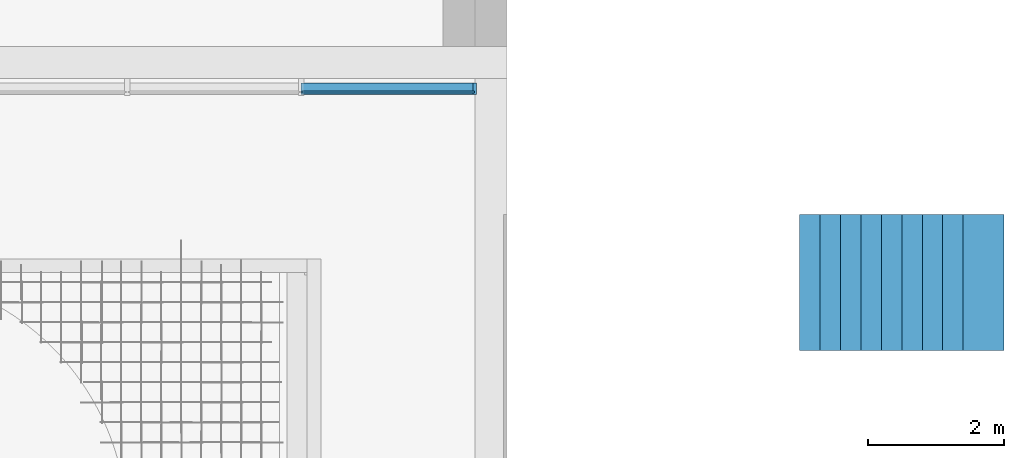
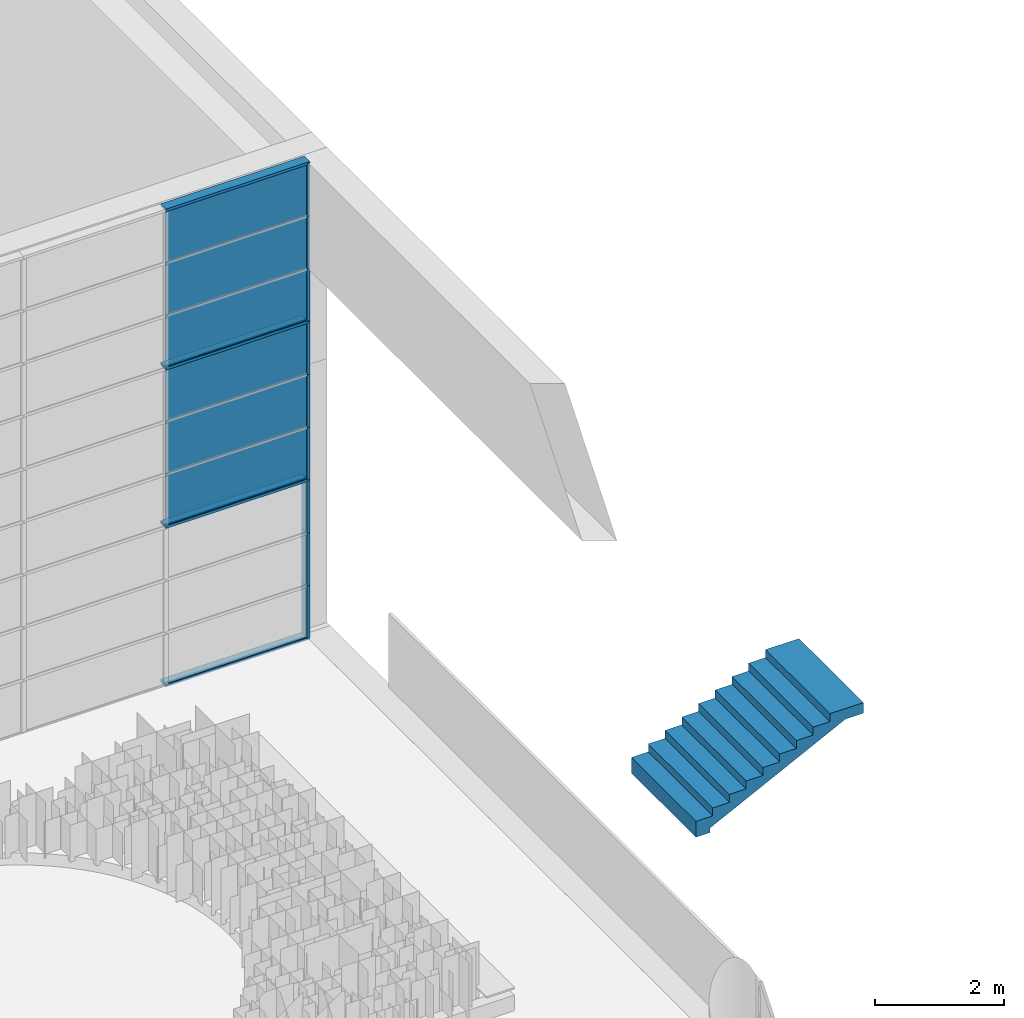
# One storey, part 59 of 105: 22 building element parts, 4 elements without a shape of their own.
"""IFC4 building model written with IfcOpenShell, lengths in millimetres."""

from ifc_helpers import new_model, entity, si_unit, converted_unit, derived_unit, direction, frame, origin_with_axes, place, context, subcontext, project, spatial, triangles, material, element, aggregate, save


model = new_model("IFC4")

# Units and contexts
model_context = context("Model", 3, precision=1e-05, world=origin_with_axes(), true_north=direction((0.0, 1.0)))
body_context = subcontext(model_context, "Body", "Model", "MODEL_VIEW")
ifc_project = project(units=[si_unit("LENGTHUNIT", "METRE", prefix="MILLI"), si_unit("AREAUNIT", "SQUARE_METRE"), si_unit("VOLUMEUNIT", "CUBIC_METRE"), converted_unit("PLANEANGLEUNIT", "DEGREE", entity("IfcLengthMeasure", 0.017453), si_unit("PLANEANGLEUNIT", "RADIAN"), dimensions=[0, 0, 0, 0, 0, 0, 0]), si_unit("SOLIDANGLEUNIT", "STERADIAN"), si_unit("MASSUNIT", "GRAM"), si_unit("TIMEUNIT", "SECOND"), si_unit("THERMODYNAMICTEMPERATUREUNIT", "DEGREE_CELSIUS"), si_unit("LUMINOUSINTENSITYUNIT", "LUMEN"), si_unit("POWERUNIT", "WATT"), derived_unit("THERMALTRANSMITTANCEUNIT", [(si_unit("POWERUNIT", "WATT"), 1), (si_unit("THERMODYNAMICTEMPERATUREUNIT", "KELVIN"), -1), (si_unit("AREAUNIT", "SQUARE_METRE"), -1)])], contexts=[model_context])

# Site, building, storey
site_placement = place(None, origin_with_axes())
site = spatial("IfcSite", under=ifc_project, at=site_placement, Name="Default Site", CompositionType="ELEMENT")
building_placement = place(site_placement, origin_with_axes())
building = spatial("IfcBuilding", under=site, at=building_placement, Name="Default Building", CompositionType="ELEMENT")
storey_placement = place(building_placement, origin_with_axes())
storey = spatial("IfcBuildingStorey", under=building, at=storey_placement, Name="OG - Story", CompositionType="ELEMENT", Elevation=0.0)

# Curtain wall, building element parts
curtain_wall_1_placement = place(storey_placement, origin_with_axes())
curtain_wall_1 = element("IfcCurtainWall", 1, at=curtain_wall_1_placement, inside=storey, Name="Fassade-005", PredefinedType="NOTDEFINED")
ifc_material_1 = material(Name="Blech")
building_element_part_1_placement = place(curtain_wall_1_placement, frame((52496.845873, -27789.262838, 3000.0), z_axis=(0.0, 0.0, 1.0), x_axis=(1.0, 0.0, 0.0)))
building_element_part_1 = element("IfcBuildingElementPart", 2, at=building_element_part_1_placement, material=ifc_material_1, Name="Blech", PredefinedType="NOTDEFINED", context=body_context, shape_type="Tessellation", body=[
    triangles([(26759.545, 15.0, 25.0), (26759.545, 133.0, 25.0), (26779.545, 15.0, 5.0), (26809.545, 133.0, -24.999), (26779.545, -14.999, 5.0), (26809.545, -34.999, -24.999), (26759.545, -14.999, 25.0), (26759.545, -34.999, 25.0), (24233.636, 15.0, 5.0), (24233.636, -14.999, 5.0), (24233.636, -14.999, 25.0), (24233.636, -34.999, 25.0), (24233.636, -34.999, -24.999), (24233.636, 133.0, -24.999), (24233.636, 133.0, 25.0), (24233.636, 15.0, 25.0)], [[1, 2, 3], [3, 2, 4], [3, 4, 5], [5, 4, 6], [5, 6, 7], [7, 6, 8], [5, 3, 9], [5, 9, 10], [11, 7, 5], [11, 5, 10], [7, 11, 12], [7, 12, 8], [13, 6, 8], [13, 8, 12], [14, 4, 6], [14, 6, 13], [15, 2, 4], [15, 4, 14], [16, 1, 2], [16, 2, 15], [3, 1, 16], [3, 16, 9], [16, 15, 9], [9, 15, 14], [9, 14, 10], [10, 14, 13], [10, 13, 11], [11, 13, 12]], closed=False),
])
building_element_part_2_placement = place(curtain_wall_1_placement, frame((52496.845873, -27789.262838, 3000.0), z_axis=(0.0, 0.0, 1.0), x_axis=(1.0, 0.0, 0.0)))
building_element_part_2 = element("IfcBuildingElementPart", 3, at=building_element_part_2_placement, material=ifc_material_1, Name="Blech", PredefinedType="NOTDEFINED", context=body_context, shape_type="Tessellation", body=[
    triangles([(26759.545, 15.0, 2975.0), (26759.545, 133.0, 2975.0), (26779.545, 15.0, 2995.0), (26809.545, 133.0, 3025.0), (26779.545, -14.999, 2995.0), (26809.545, -34.999, 3025.0), (26759.545, -14.999, 2975.0), (26759.545, -34.999, 2975.0), (26779.545, 15.0, 2000.0), (26779.545, -14.999, 2000.0), (26759.545, -14.999, 2000.0), (26759.545, -34.999, 2000.0), (26809.545, -34.999, 2000.0), (26809.545, 133.0, 2000.0), (26759.545, 133.0, 2000.0), (26759.545, 15.0, 2000.0)], [[1, 2, 3], [3, 2, 4], [3, 4, 5], [5, 4, 6], [5, 6, 7], [7, 6, 8], [5, 3, 9], [5, 9, 10], [11, 7, 5], [11, 5, 10], [7, 11, 12], [7, 12, 8], [13, 6, 8], [13, 8, 12], [14, 4, 6], [14, 6, 13], [15, 2, 4], [15, 4, 14], [16, 1, 2], [16, 2, 15], [3, 1, 16], [3, 16, 9], [10, 9, 14], [10, 14, 13], [10, 13, 12], [10, 12, 11], [16, 15, 14], [16, 14, 9]], closed=False),
])
building_element_part_3_placement = place(curtain_wall_1_placement, frame((52496.845873, -27789.262838, 3000.0), z_axis=(0.0, 0.0, 1.0), x_axis=(1.0, 0.0, 0.0)))
building_element_part_3 = element("IfcBuildingElementPart", 4, at=building_element_part_3_placement, material=ifc_material_1, Name="Blech", PredefinedType="NOTDEFINED", context=body_context, shape_type="Tessellation", body=[
    triangles([(26779.545, -14.999, 1000.0), (26779.545, 15.0, 1000.0), (26809.545, 133.0, 1000.0), (26809.545, -34.999, 1000.0), (26759.545, -34.999, 1000.0), (26759.545, -14.999, 1000.0), (26759.545, 15.0, 1000.0), (26759.545, 133.0, 1000.0), (26779.545, 15.0, 5.0), (26779.545, -14.999, 5.0), (26759.545, -14.999, 25.0), (26759.545, -34.999, 25.0), (26809.545, -34.999, -24.999), (26809.545, 133.0, -24.999), (26759.545, 133.0, 25.0), (26759.545, 15.0, 25.0)], [[1, 2, 3], [1, 3, 4], [1, 4, 5], [1, 5, 6], [7, 8, 3], [7, 3, 2], [1, 2, 9], [1, 9, 10], [11, 6, 1], [11, 1, 10], [6, 11, 12], [6, 12, 5], [4, 5, 12], [4, 12, 13], [3, 4, 13], [3, 13, 14], [8, 3, 14], [8, 14, 15], [16, 7, 8], [16, 8, 15], [2, 7, 16], [2, 16, 9], [16, 15, 9], [9, 15, 14], [9, 14, 10], [10, 14, 13], [10, 13, 11], [11, 13, 12]], closed=False),
])
building_element_part_4_placement = place(curtain_wall_1_placement, frame((52496.845873, -27789.262838, 3000.0), z_axis=(0.0, 0.0, 1.0), x_axis=(1.0, 0.0, 0.0)))
building_element_part_4 = element("IfcBuildingElementPart", 5, at=building_element_part_4_placement, material=ifc_material_1, Name="Blech", PredefinedType="NOTDEFINED", context=body_context, shape_type="Tessellation", body=[
    triangles([(26759.545, 15.0, 2975.0), (26759.545, 133.0, 2975.0), (26779.545, 15.0, 2995.0), (26809.545, 133.0, 3025.0), (26779.545, -14.999, 2995.0), (26809.545, -34.999, 3025.0), (26759.545, -14.999, 2975.0), (26759.545, -34.999, 2975.0), (24233.636, 15.0, 2995.0), (24233.636, 15.0, 2975.0), (24233.636, 133.0, 2975.0), (24233.636, 133.0, 3025.0), (24233.636, -34.999, 3025.0), (24233.636, -34.999, 2975.0), (24233.636, -14.999, 2975.0), (24233.636, -14.999, 2995.0)], [[1, 2, 3], [3, 2, 4], [3, 4, 5], [5, 4, 6], [5, 6, 7], [7, 6, 8], [3, 9, 10], [3, 10, 1], [10, 11, 2], [10, 2, 1], [11, 12, 4], [11, 4, 2], [12, 13, 6], [12, 6, 4], [13, 14, 8], [13, 8, 6], [7, 8, 14], [7, 14, 15], [15, 16, 5], [15, 5, 7], [5, 16, 9], [5, 9, 3], [10, 11, 9], [9, 11, 12], [9, 12, 16], [16, 12, 13], [16, 13, 15], [15, 13, 14]], closed=False),
])
building_element_part_5_placement = place(curtain_wall_1_placement, frame((52496.845873, -27789.262838, 3000.0), z_axis=(0.0, 0.0, 1.0), x_axis=(1.0, 0.0, 0.0)))
building_element_part_5 = element("IfcBuildingElementPart", 6, at=building_element_part_5_placement, material=ifc_material_1, Name="Blech", PredefinedType="NOTDEFINED", context=body_context, shape_type="Tessellation", body=[
    triangles([(26779.545, -14.999, 2000.0), (26779.545, 15.0, 2000.0), (26809.545, 133.0, 2000.0), (26809.545, -34.999, 2000.0), (26759.545, -34.999, 2000.0), (26759.545, -14.999, 2000.0), (26759.545, 15.0, 2000.0), (26759.545, 133.0, 2000.0), (26779.545, 15.0, 1000.0), (26779.545, -14.999, 1000.0), (26759.545, -14.999, 1000.0), (26759.545, -34.999, 1000.0), (26809.545, -34.999, 1000.0), (26809.545, 133.0, 1000.0), (26759.545, 133.0, 1000.0), (26759.545, 15.0, 1000.0)], [[1, 2, 3], [1, 3, 4], [1, 4, 5], [1, 5, 6], [7, 8, 3], [7, 3, 2], [1, 2, 9], [1, 9, 10], [11, 6, 1], [11, 1, 10], [6, 11, 12], [6, 12, 5], [13, 4, 5], [13, 5, 12], [14, 3, 4], [14, 4, 13], [15, 8, 3], [15, 3, 14], [16, 7, 8], [16, 8, 15], [2, 7, 16], [2, 16, 9], [10, 9, 14], [10, 14, 13], [10, 13, 12], [10, 12, 11], [16, 15, 14], [16, 14, 9]], closed=False),
])
aggregate(curtain_wall_1, [building_element_part_1, building_element_part_2, building_element_part_3, building_element_part_4, building_element_part_5])

curtain_wall_2_placement = place(storey_placement, origin_with_axes())
curtain_wall_2 = element("IfcCurtainWall", 7, at=curtain_wall_2_placement, inside=storey, Name="Fassade-005", PredefinedType="NOTDEFINED")
ifc_material_2 = material(Name="Normalglas")
building_element_part_6_placement = place(curtain_wall_2_placement, frame((52496.845873, -27789.262838, 6000.0), z_axis=(0.0, 0.0, 1.0), x_axis=(1.0, 0.0, 0.0)))
building_element_part_6 = element("IfcBuildingElementPart", 8, at=building_element_part_6_placement, material=ifc_material_2, Name="Normalglas", PredefinedType="NOTDEFINED", context=body_context, shape_type="Tessellation", body=[
    triangles([(26779.545, 15.0, 995.0), (24243.636, 15.0, 995.0), (24243.636, -14.999, 995.0), (26779.545, -14.999, 995.0), (26779.545, 15.0, 5.0), (24243.636, 15.0, 5.0), (24243.636, -14.999, 5.0), (26779.545, -14.999, 5.0)], [[1, 2, 3], [1, 3, 4], [1, 5, 6], [1, 6, 2], [2, 6, 7], [2, 7, 3], [4, 3, 7], [4, 7, 8], [5, 1, 4], [5, 4, 8], [6, 5, 8], [6, 8, 7]], closed=False),
])
building_element_part_7_placement = place(curtain_wall_2_placement, frame((52496.845873, -27789.262838, 6000.0), z_axis=(0.0, 0.0, 1.0), x_axis=(1.0, 0.0, 0.0)))
building_element_part_7 = element("IfcBuildingElementPart", 9, at=building_element_part_7_placement, material=ifc_material_2, Name="Normalglas", PredefinedType="NOTDEFINED", context=body_context, shape_type="Tessellation", body=[
    triangles([(26779.545, 15.0, 1995.0), (24243.636, 15.0, 1995.0), (24243.636, -14.999, 1995.0), (26779.545, -14.999, 1995.0), (26779.545, 15.0, 1005.0), (24243.636, 15.0, 1005.0), (24243.636, -14.999, 1005.0), (26779.545, -14.999, 1005.0)], [[1, 2, 3], [1, 3, 4], [1, 5, 6], [1, 6, 2], [2, 6, 7], [2, 7, 3], [4, 3, 7], [4, 7, 8], [5, 1, 4], [5, 4, 8], [6, 5, 8], [6, 8, 7]], closed=False),
])
building_element_part_8_placement = place(curtain_wall_2_placement, frame((52496.845873, -27789.262838, 6000.0), z_axis=(0.0, 0.0, 1.0), x_axis=(1.0, 0.0, 0.0)))
building_element_part_8 = element("IfcBuildingElementPart", 10, at=building_element_part_8_placement, material=ifc_material_2, Name="Normalglas", PredefinedType="NOTDEFINED", context=body_context, shape_type="Tessellation", body=[
    triangles([(26779.545, 15.0, 2995.0), (24243.636, 15.0, 2995.0), (24243.636, -14.999, 2995.0), (26779.545, -14.999, 2995.0), (26779.545, 15.0, 2005.0), (24243.636, 15.0, 2005.0), (24243.636, -14.999, 2005.0), (26779.545, -14.999, 2005.0)], [[1, 2, 3], [1, 3, 4], [1, 5, 6], [1, 6, 2], [2, 6, 7], [2, 7, 3], [4, 3, 7], [4, 7, 8], [5, 1, 4], [5, 4, 8], [6, 5, 8], [6, 8, 7]], closed=False),
])
building_element_part_9_placement = place(curtain_wall_2_placement, frame((52496.845873, -27789.262838, 6000.0), z_axis=(0.0, 0.0, 1.0), x_axis=(1.0, 0.0, 0.0)))
building_element_part_9 = element("IfcBuildingElementPart", 11, at=building_element_part_9_placement, material=ifc_material_1, Name="Blech", PredefinedType="NOTDEFINED", context=body_context, shape_type="Tessellation", body=[
    triangles([(26759.545, 15.0, 25.0), (26759.545, 133.0, 25.0), (26779.545, 15.0, 5.0), (26809.545, 133.0, -24.999), (26779.545, -14.999, 5.0), (26809.545, -34.999, -24.999), (26759.545, -14.999, 25.0), (26759.545, -34.999, 25.0), (24233.636, 15.0, 5.0), (24233.636, -14.999, 5.0), (24233.636, -14.999, 25.0), (24233.636, -34.999, 25.0), (24233.636, -34.999, -24.999), (24233.636, 133.0, -24.999), (24233.636, 133.0, 25.0), (24233.636, 15.0, 25.0)], [[1, 2, 3], [3, 2, 4], [3, 4, 5], [5, 4, 6], [5, 6, 7], [7, 6, 8], [5, 3, 9], [5, 9, 10], [11, 7, 5], [11, 5, 10], [7, 11, 12], [7, 12, 8], [13, 6, 8], [13, 8, 12], [14, 4, 6], [14, 6, 13], [15, 2, 4], [15, 4, 14], [16, 1, 2], [16, 2, 15], [3, 1, 16], [3, 16, 9], [16, 15, 9], [9, 15, 14], [9, 14, 10], [10, 14, 13], [10, 13, 11], [11, 13, 12]], closed=False),
])
building_element_part_10_placement = place(curtain_wall_2_placement, frame((52496.845873, -27789.262838, 6000.0), z_axis=(0.0, 0.0, 1.0), x_axis=(1.0, 0.0, 0.0)))
building_element_part_10 = element("IfcBuildingElementPart", 12, at=building_element_part_10_placement, material=ifc_material_1, Name="Blech", PredefinedType="NOTDEFINED", context=body_context, shape_type="Tessellation", body=[
    triangles([(26759.545, 15.0, 2975.0), (26759.545, 133.0, 2975.0), (26779.545, 15.0, 2995.0), (26809.545, 133.0, 3025.0), (26779.545, -14.999, 2995.0), (26809.545, -34.999, 3025.0), (26759.545, -14.999, 2975.0), (26759.545, -34.999, 2975.0), (26779.545, 15.0, 2000.0), (26779.545, -14.999, 2000.0), (26759.545, -14.999, 2000.0), (26759.545, -34.999, 2000.0), (26809.545, -34.999, 2000.0), (26809.545, 133.0, 2000.0), (26759.545, 133.0, 2000.0), (26759.545, 15.0, 2000.0)], [[1, 2, 3], [3, 2, 4], [3, 4, 5], [5, 4, 6], [5, 6, 7], [7, 6, 8], [5, 3, 9], [5, 9, 10], [11, 7, 5], [11, 5, 10], [7, 11, 12], [7, 12, 8], [13, 6, 8], [13, 8, 12], [14, 4, 6], [14, 6, 13], [15, 2, 4], [15, 4, 14], [16, 1, 2], [16, 2, 15], [3, 1, 16], [3, 16, 9], [10, 9, 14], [10, 14, 13], [10, 13, 12], [10, 12, 11], [16, 15, 14], [16, 14, 9]], closed=False),
])
building_element_part_11_placement = place(curtain_wall_2_placement, frame((52496.845873, -27789.262838, 6000.0), z_axis=(0.0, 0.0, 1.0), x_axis=(1.0, 0.0, 0.0)))
building_element_part_11 = element("IfcBuildingElementPart", 13, at=building_element_part_11_placement, material=ifc_material_1, Name="Blech", PredefinedType="NOTDEFINED", context=body_context, shape_type="Tessellation", body=[
    triangles([(26779.545, -14.999, 1000.0), (26779.545, 15.0, 1000.0), (26809.545, 133.0, 1000.0), (26809.545, -34.999, 1000.0), (26759.545, -34.999, 1000.0), (26759.545, -14.999, 1000.0), (26759.545, 15.0, 1000.0), (26759.545, 133.0, 1000.0), (26779.545, 15.0, 5.0), (26779.545, -14.999, 5.0), (26759.545, -14.999, 25.0), (26759.545, -34.999, 25.0), (26809.545, -34.999, -24.999), (26809.545, 133.0, -24.999), (26759.545, 133.0, 25.0), (26759.545, 15.0, 25.0)], [[1, 2, 3], [1, 3, 4], [1, 4, 5], [1, 5, 6], [7, 8, 3], [7, 3, 2], [1, 2, 9], [1, 9, 10], [11, 6, 1], [11, 1, 10], [6, 11, 12], [6, 12, 5], [4, 5, 12], [4, 12, 13], [3, 4, 13], [3, 13, 14], [8, 3, 14], [8, 14, 15], [16, 7, 8], [16, 8, 15], [2, 7, 16], [2, 16, 9], [16, 15, 9], [9, 15, 14], [9, 14, 10], [10, 14, 13], [10, 13, 11], [11, 13, 12]], closed=False),
])
building_element_part_12_placement = place(curtain_wall_2_placement, frame((52496.845873, -27789.262838, 6000.0), z_axis=(0.0, 0.0, 1.0), x_axis=(1.0, 0.0, 0.0)))
building_element_part_12 = element("IfcBuildingElementPart", 14, at=building_element_part_12_placement, material=ifc_material_1, Name="Blech", PredefinedType="NOTDEFINED", context=body_context, shape_type="Tessellation", body=[
    triangles([(26759.545, 15.0, 2975.0), (26759.545, 133.0, 2975.0), (26779.545, 15.0, 2995.0), (26809.545, 133.0, 3025.0), (26779.545, -14.999, 2995.0), (26809.545, -34.999, 3025.0), (26759.545, -14.999, 2975.0), (26759.545, -34.999, 2975.0), (24233.636, 15.0, 2995.0), (24233.636, 15.0, 2975.0), (24233.636, 133.0, 2975.0), (24233.636, 133.0, 3025.0), (24233.636, -34.999, 3025.0), (24233.636, -34.999, 2975.0), (24233.636, -14.999, 2975.0), (24233.636, -14.999, 2995.0)], [[1, 2, 3], [3, 2, 4], [3, 4, 5], [5, 4, 6], [5, 6, 7], [7, 6, 8], [3, 9, 10], [3, 10, 1], [10, 11, 2], [10, 2, 1], [11, 12, 4], [11, 4, 2], [12, 13, 6], [12, 6, 4], [13, 14, 8], [13, 8, 6], [7, 8, 14], [7, 14, 15], [15, 16, 5], [15, 5, 7], [5, 16, 9], [5, 9, 3], [10, 11, 9], [9, 11, 12], [9, 12, 16], [16, 12, 13], [16, 13, 15], [15, 13, 14]], closed=False),
])
building_element_part_13_placement = place(curtain_wall_2_placement, frame((52496.845873, -27789.262838, 6000.0), z_axis=(0.0, 0.0, 1.0), x_axis=(1.0, 0.0, 0.0)))
building_element_part_13 = element("IfcBuildingElementPart", 15, at=building_element_part_13_placement, material=ifc_material_1, Name="Blech", PredefinedType="NOTDEFINED", context=body_context, shape_type="Tessellation", body=[
    triangles([(26779.545, -14.999, 2000.0), (26779.545, 15.0, 2000.0), (26809.545, 133.0, 2000.0), (26809.545, -34.999, 2000.0), (26759.545, -34.999, 2000.0), (26759.545, -14.999, 2000.0), (26759.545, 15.0, 2000.0), (26759.545, 133.0, 2000.0), (26779.545, 15.0, 1000.0), (26779.545, -14.999, 1000.0), (26759.545, -14.999, 1000.0), (26759.545, -34.999, 1000.0), (26809.545, -34.999, 1000.0), (26809.545, 133.0, 1000.0), (26759.545, 133.0, 1000.0), (26759.545, 15.0, 1000.0)], [[1, 2, 3], [1, 3, 4], [1, 4, 5], [1, 5, 6], [7, 8, 3], [7, 3, 2], [1, 2, 9], [1, 9, 10], [11, 6, 1], [11, 1, 10], [6, 11, 12], [6, 12, 5], [13, 4, 5], [13, 5, 12], [14, 3, 4], [14, 4, 13], [15, 8, 3], [15, 3, 14], [16, 7, 8], [16, 8, 15], [2, 7, 16], [2, 16, 9], [10, 9, 14], [10, 14, 13], [10, 13, 12], [10, 12, 11], [16, 15, 14], [16, 14, 9]], closed=False),
])
aggregate(curtain_wall_2, [building_element_part_6, building_element_part_7, building_element_part_8, building_element_part_9, building_element_part_10, building_element_part_11, building_element_part_12, building_element_part_13])

curtain_wall_3_placement = place(storey_placement, origin_with_axes())
curtain_wall_3 = element("IfcCurtainWall", 16, at=curtain_wall_3_placement, inside=storey, Name="Fassade-005", PredefinedType="NOTDEFINED")
building_element_part_14_placement = place(curtain_wall_3_placement, frame((52496.845873, -27789.262838, 9000.0), z_axis=(0.0, 0.0, 1.0), x_axis=(1.0, 0.0, 0.0)))
building_element_part_14 = element("IfcBuildingElementPart", 17, at=building_element_part_14_placement, material=ifc_material_2, Name="Normalglas", PredefinedType="NOTDEFINED", context=body_context, shape_type="Tessellation", body=[
    triangles([(26779.545, 15.0, 995.0), (24243.636, 15.0, 995.0), (24243.636, -14.999, 995.0), (26779.545, -14.999, 995.0), (26779.545, 15.0, 5.0), (24243.636, 15.0, 5.0), (24243.636, -14.999, 5.0), (26779.545, -14.999, 5.0)], [[1, 2, 3], [1, 3, 4], [1, 5, 6], [1, 6, 2], [2, 6, 7], [2, 7, 3], [4, 3, 7], [4, 7, 8], [5, 1, 4], [5, 4, 8], [6, 5, 8], [6, 8, 7]], closed=False),
])
building_element_part_15_placement = place(curtain_wall_3_placement, frame((52496.845873, -27789.262838, 9000.0), z_axis=(0.0, 0.0, 1.0), x_axis=(1.0, 0.0, 0.0)))
building_element_part_15 = element("IfcBuildingElementPart", 18, at=building_element_part_15_placement, material=ifc_material_2, Name="Normalglas", PredefinedType="NOTDEFINED", context=body_context, shape_type="Tessellation", body=[
    triangles([(26779.545, 15.0, 1995.0), (24243.636, 15.0, 1995.0), (24243.636, -14.999, 1995.0), (26779.545, -14.999, 1995.0), (26779.545, 15.0, 1005.0), (24243.636, 15.0, 1005.0), (24243.636, -14.999, 1005.0), (26779.545, -14.999, 1005.0)], [[1, 2, 3], [1, 3, 4], [1, 5, 6], [1, 6, 2], [2, 6, 7], [2, 7, 3], [4, 3, 7], [4, 7, 8], [5, 1, 4], [5, 4, 8], [6, 5, 8], [6, 8, 7]], closed=False),
])
building_element_part_16_placement = place(curtain_wall_3_placement, frame((52496.845873, -27789.262838, 9000.0), z_axis=(0.0, 0.0, 1.0), x_axis=(1.0, 0.0, 0.0)))
building_element_part_16 = element("IfcBuildingElementPart", 19, at=building_element_part_16_placement, material=ifc_material_2, Name="Normalglas", PredefinedType="NOTDEFINED", context=body_context, shape_type="Tessellation", body=[
    triangles([(26779.545, 15.0, 2995.0), (24243.636, 15.0, 2995.0), (24243.636, -14.999, 2995.0), (26779.545, -14.999, 2995.0), (26779.545, 15.0, 2005.0), (24243.636, 15.0, 2005.0), (24243.636, -14.999, 2005.0), (26779.545, -14.999, 2005.0)], [[1, 2, 3], [1, 3, 4], [1, 5, 6], [1, 6, 2], [2, 6, 7], [2, 7, 3], [4, 3, 7], [4, 7, 8], [5, 1, 4], [5, 4, 8], [6, 5, 8], [6, 8, 7]], closed=False),
])
building_element_part_17_placement = place(curtain_wall_3_placement, frame((52496.845873, -27789.262838, 9000.0), z_axis=(0.0, 0.0, 1.0), x_axis=(1.0, 0.0, 0.0)))
building_element_part_17 = element("IfcBuildingElementPart", 20, at=building_element_part_17_placement, material=ifc_material_1, Name="Blech", PredefinedType="NOTDEFINED", context=body_context, shape_type="Tessellation", body=[
    triangles([(26759.545, 15.0, 25.0), (26759.545, 133.0, 25.0), (26779.545, 15.0, 5.0), (26809.545, 133.0, -24.999), (26779.545, -14.999, 5.0), (26809.545, -34.999, -24.999), (26759.545, -14.999, 25.0), (26759.545, -34.999, 25.0), (24233.636, 15.0, 5.0), (24233.636, -14.999, 5.0), (24233.636, -14.999, 25.0), (24233.636, -34.999, 25.0), (24233.636, -34.999, -24.999), (24233.636, 133.0, -24.999), (24233.636, 133.0, 25.0), (24233.636, 15.0, 25.0)], [[1, 2, 3], [3, 2, 4], [3, 4, 5], [5, 4, 6], [5, 6, 7], [7, 6, 8], [5, 3, 9], [5, 9, 10], [11, 7, 5], [11, 5, 10], [7, 11, 12], [7, 12, 8], [13, 6, 8], [13, 8, 12], [14, 4, 6], [14, 6, 13], [15, 2, 4], [15, 4, 14], [16, 1, 2], [16, 2, 15], [3, 1, 16], [3, 16, 9], [16, 15, 9], [9, 15, 14], [9, 14, 10], [10, 14, 13], [10, 13, 11], [11, 13, 12]], closed=False),
])
building_element_part_18_placement = place(curtain_wall_3_placement, frame((52496.845873, -27789.262838, 9000.0), z_axis=(0.0, 0.0, 1.0), x_axis=(1.0, 0.0, 0.0)))
building_element_part_18 = element("IfcBuildingElementPart", 21, at=building_element_part_18_placement, material=ifc_material_1, Name="Blech", PredefinedType="NOTDEFINED", context=body_context, shape_type="Tessellation", body=[
    triangles([(26759.545, 15.0, 2975.0), (26759.545, 133.0, 2975.0), (26779.545, 15.0, 2995.0), (26809.545, 133.0, 3025.0), (26779.545, -14.999, 2995.0), (26809.545, -34.999, 3025.0), (26759.545, -14.999, 2975.0), (26759.545, -34.999, 2975.0), (26779.545, 15.0, 2000.0), (26779.545, -14.999, 2000.0), (26759.545, -14.999, 2000.0), (26759.545, -34.999, 2000.0), (26809.545, -34.999, 2000.0), (26809.545, 133.0, 2000.0), (26759.545, 133.0, 2000.0), (26759.545, 15.0, 2000.0)], [[1, 2, 3], [3, 2, 4], [3, 4, 5], [5, 4, 6], [5, 6, 7], [7, 6, 8], [5, 3, 9], [5, 9, 10], [11, 7, 5], [11, 5, 10], [7, 11, 12], [7, 12, 8], [13, 6, 8], [13, 8, 12], [14, 4, 6], [14, 6, 13], [15, 2, 4], [15, 4, 14], [16, 1, 2], [16, 2, 15], [3, 1, 16], [3, 16, 9], [10, 9, 14], [10, 14, 13], [10, 13, 12], [10, 12, 11], [16, 15, 14], [16, 14, 9]], closed=False),
])
building_element_part_19_placement = place(curtain_wall_3_placement, frame((52496.845873, -27789.262838, 9000.0), z_axis=(0.0, 0.0, 1.0), x_axis=(1.0, 0.0, 0.0)))
building_element_part_19 = element("IfcBuildingElementPart", 22, at=building_element_part_19_placement, material=ifc_material_1, Name="Blech", PredefinedType="NOTDEFINED", context=body_context, shape_type="Tessellation", body=[
    triangles([(26779.545, -14.999, 1000.0), (26779.545, 15.0, 1000.0), (26809.545, 133.0, 1000.0), (26809.545, -34.999, 1000.0), (26759.545, -34.999, 1000.0), (26759.545, -14.999, 1000.0), (26759.545, 15.0, 1000.0), (26759.545, 133.0, 1000.0), (26779.545, 15.0, 5.0), (26779.545, -14.999, 5.0), (26759.545, -14.999, 25.0), (26759.545, -34.999, 25.0), (26809.545, -34.999, -24.999), (26809.545, 133.0, -24.999), (26759.545, 133.0, 25.0), (26759.545, 15.0, 25.0)], [[1, 2, 3], [1, 3, 4], [1, 4, 5], [1, 5, 6], [7, 8, 3], [7, 3, 2], [1, 2, 9], [1, 9, 10], [11, 6, 1], [11, 1, 10], [6, 11, 12], [6, 12, 5], [4, 5, 12], [4, 12, 13], [3, 4, 13], [3, 13, 14], [8, 3, 14], [8, 14, 15], [16, 7, 8], [16, 8, 15], [2, 7, 16], [2, 16, 9], [16, 15, 9], [9, 15, 14], [9, 14, 10], [10, 14, 13], [10, 13, 11], [11, 13, 12]], closed=False),
])
building_element_part_20_placement = place(curtain_wall_3_placement, frame((52496.845873, -27789.262838, 9000.0), z_axis=(0.0, 0.0, 1.0), x_axis=(1.0, 0.0, 0.0)))
building_element_part_20 = element("IfcBuildingElementPart", 23, at=building_element_part_20_placement, material=ifc_material_1, Name="Blech", PredefinedType="NOTDEFINED", context=body_context, shape_type="Tessellation", body=[
    triangles([(26759.545, 15.0, 2975.0), (26759.545, 133.0, 2975.0), (26779.545, 15.0, 2995.0), (26809.545, 133.0, 3025.0), (26779.545, -14.999, 2995.0), (26809.545, -34.999, 3025.0), (26759.545, -14.999, 2975.0), (26759.545, -34.999, 2975.0), (24233.636, 15.0, 2995.0), (24233.636, 15.0, 2975.0), (24233.636, 133.0, 2975.0), (24233.636, 133.0, 3025.0), (24233.636, -34.999, 3025.0), (24233.636, -34.999, 2975.0), (24233.636, -14.999, 2975.0), (24233.636, -14.999, 2995.0)], [[1, 2, 3], [3, 2, 4], [3, 4, 5], [5, 4, 6], [5, 6, 7], [7, 6, 8], [3, 9, 10], [3, 10, 1], [10, 11, 2], [10, 2, 1], [11, 12, 4], [11, 4, 2], [12, 13, 6], [12, 6, 4], [13, 14, 8], [13, 8, 6], [7, 8, 14], [7, 14, 15], [15, 16, 5], [15, 5, 7], [5, 16, 9], [5, 9, 3], [10, 11, 9], [9, 11, 12], [9, 12, 16], [16, 12, 13], [16, 13, 15], [15, 13, 14]], closed=False),
])
building_element_part_21_placement = place(curtain_wall_3_placement, frame((52496.845873, -27789.262838, 9000.0), z_axis=(0.0, 0.0, 1.0), x_axis=(1.0, 0.0, 0.0)))
building_element_part_21 = element("IfcBuildingElementPart", 24, at=building_element_part_21_placement, material=ifc_material_1, Name="Blech", PredefinedType="NOTDEFINED", context=body_context, shape_type="Tessellation", body=[
    triangles([(26779.545, -14.999, 2000.0), (26779.545, 15.0, 2000.0), (26809.545, 133.0, 2000.0), (26809.545, -34.999, 2000.0), (26759.545, -34.999, 2000.0), (26759.545, -14.999, 2000.0), (26759.545, 15.0, 2000.0), (26759.545, 133.0, 2000.0), (26779.545, 15.0, 1000.0), (26779.545, -14.999, 1000.0), (26759.545, -14.999, 1000.0), (26759.545, -34.999, 1000.0), (26809.545, -34.999, 1000.0), (26809.545, 133.0, 1000.0), (26759.545, 133.0, 1000.0), (26759.545, 15.0, 1000.0)], [[1, 2, 3], [1, 3, 4], [1, 4, 5], [1, 5, 6], [7, 8, 3], [7, 3, 2], [1, 2, 9], [1, 9, 10], [11, 6, 1], [11, 1, 10], [6, 11, 12], [6, 12, 5], [13, 4, 5], [13, 5, 12], [14, 3, 4], [14, 4, 13], [15, 8, 3], [15, 3, 14], [16, 7, 8], [16, 8, 15], [2, 7, 16], [2, 16, 9], [10, 9, 14], [10, 14, 13], [10, 13, 12], [10, 12, 11], [16, 15, 14], [16, 14, 9]], closed=False),
])
aggregate(curtain_wall_3, [building_element_part_14, building_element_part_15, building_element_part_16, building_element_part_17, building_element_part_18, building_element_part_19, building_element_part_20, building_element_part_21])

# Stair, building element part
stair_placement = place(storey_placement, origin_with_axes())
stair = element("IfcStair", 25, at=stair_placement, inside=storey, Name="Treppe - 001", PredefinedType="NOTDEFINED")
ifc_material_3 = material(Name="Bauteil")
building_element_part_22_placement = place(stair_placement, frame((84051.391327, -29589.262838, 0.0), z_axis=(0.0, 0.0, 1.0), x_axis=(1.0, 0.0, 0.0)))
building_element_part_22 = element("IfcBuildingElementPart", 26, at=building_element_part_22_placement, material=ifc_material_3, Name="Bauteil", PredefinedType="NOTDEFINED", context=body_context, shape_type="Tessellation", body=[
    triangles([(2625.0, 0.0, 1122.434), (2680.132, 0.0, 1150.0), (2680.132, -1999.999, 1150.0), (2625.0, -1999.999, 1122.434), (400.0, 0.0, 9.934), (500.0, 0.0, 59.934), (0.0, 0.0, 150.0), (600.0, 0.0, 109.934), (300.0, 0.0, 150.0), (700.0, 0.0, 159.934), (300.0, 0.0, 300.0), (800.0, 0.0, 209.934), (900.0, 0.0, 259.934), (0.0, 0.0, -149.999), (250.0, 0.0, -65.065), (300.0, 0.0, -40.065), (975.0, 0.0, 297.434), (600.0, 0.0, 300.0), (1050.0, 0.0, 334.934), (600.0, 0.0, 450.0), (1125.0, 0.0, 372.434), (1200.0, 0.0, 409.934), (1275.0, 0.0, 447.434), (900.0, 0.0, 450.0), (1350.0, 0.0, 484.934), (900.0, 0.0, 600.0), (1425.0, 0.0, 522.434), (1500.0, 0.0, 559.934), (1200.0, 0.0, 600.0), (1600.0, 0.0, 609.934), (1200.0, 0.0, 750.0), (1700.0, 0.0, 659.934), (1800.0, 0.0, 709.934), (1875.0, 0.0, 747.434), (1500.0, 0.0, 750.0), (1950.0, 0.0, 784.934), (1500.0, 0.0, 900.0), (2025.0, 0.0, 822.434), (2100.0, 0.0, 859.934), (1800.0, 0.0, 900.0), (2200.0, 0.0, 909.934), (1800.0, 0.0, 1050.0), (2300.0, 0.0, 959.934), (2400.0, 0.0, 1009.934), (2475.0, 0.0, 1047.434), (2100.0, 0.0, 1050.0), (2500.0, 0.0, 1059.934), (2100.0, 0.0, 1200.0), (2550.0, 0.0, 1084.934), (2600.0, 0.0, 1109.934), (3000.0, 0.0, 1350.0), (2400.0, 0.0, 1350.0), (3000.0, 0.0, 1309.934), (2400.0, 0.0, 1200.0), (3000.0, 0.0, 1150.0), (250.0, 0.0, -149.999), (3000.0, -1999.999, 1150.0), (400.0, -1999.999, 9.934), (500.0, -1999.999, 59.934), (0.0, -1999.999, 150.0), (600.0, -1999.999, 109.934), (300.0, -1999.999, 150.0), (700.0, -1999.999, 159.934), (300.0, -1999.999, 300.0), (800.0, -1999.999, 209.934), (900.0, -1999.999, 259.934), (0.0, -1999.999, -149.999), (250.0, -1999.999, -65.065), (300.0, -1999.999, -40.065), (975.0, -1999.999, 297.434), (600.0, -1999.999, 300.0), (1050.0, -1999.999, 334.934), (600.0, -1999.999, 450.0), (1125.0, -1999.999, 372.434), (1200.0, -1999.999, 409.934), (1275.0, -1999.999, 447.434), (900.0, -1999.999, 450.0), (1350.0, -1999.999, 484.934), (900.0, -1999.999, 600.0), (1425.0, -1999.999, 522.434), (1500.0, -1999.999, 559.934), (1200.0, -1999.999, 600.0), (1600.0, -1999.999, 609.934), (1200.0, -1999.999, 750.0), (1700.0, -1999.999, 659.934), (1800.0, -1999.999, 709.934), (1875.0, -1999.999, 747.434), (1500.0, -1999.999, 750.0), (1950.0, -1999.999, 784.934), (1500.0, -1999.999, 900.0), (2025.0, -1999.999, 822.434), (2100.0, -1999.999, 859.934), (1800.0, -1999.999, 900.0), (2200.0, -1999.999, 909.934), (1800.0, -1999.999, 1050.0), (2300.0, -1999.999, 959.934), (2400.0, -1999.999, 1009.934), (2475.0, -1999.999, 1047.434), (2100.0, -1999.999, 1050.0), (2500.0, -1999.999, 1059.934), (2100.0, -1999.999, 1200.0), (2550.0, -1999.999, 1084.934), (2600.0, -1999.999, 1109.934), (3000.0, -1999.999, 1350.0), (2400.0, -1999.999, 1350.0), (3000.0, -1999.999, 1309.934), (2400.0, -1999.999, 1200.0), (250.0, -1999.999, -149.999)], [[1, 2, 3], [1, 3, 4], [5, 6, 7], [7, 6, 8], [7, 8, 9], [9, 8, 10], [9, 10, 11], [11, 10, 12], [11, 12, 13], [7, 14, 15], [7, 15, 16], [7, 16, 5], [11, 17, 18], [18, 17, 19], [18, 19, 20], [20, 19, 21], [20, 21, 22], [20, 23, 24], [24, 23, 25], [24, 25, 26], [26, 25, 27], [26, 27, 28], [26, 28, 29], [29, 28, 30], [29, 30, 31], [31, 30, 32], [31, 32, 33], [31, 34, 35], [35, 34, 36], [35, 36, 37], [37, 36, 38], [37, 38, 39], [37, 39, 40], [40, 39, 41], [40, 41, 42], [42, 41, 43], [42, 43, 44], [42, 45, 46], [46, 45, 47], [46, 47, 48], [48, 47, 49], [48, 49, 50], [51, 52, 53], [53, 52, 54], [53, 54, 2], [2, 54, 48], [2, 48, 1], [1, 48, 50], [53, 2, 55], [42, 44, 45], [31, 33, 34], [20, 22, 23], [11, 13, 17], [15, 14, 56], [3, 2, 55], [3, 55, 57], [58, 59, 60], [60, 59, 61], [60, 61, 62], [62, 61, 63], [62, 63, 64], [64, 63, 65], [64, 65, 66], [60, 67, 68], [60, 68, 69], [60, 69, 58], [64, 70, 71], [71, 70, 72], [71, 72, 73], [73, 72, 74], [73, 74, 75], [73, 76, 77], [77, 76, 78], [77, 78, 79], [79, 78, 80], [79, 80, 81], [79, 81, 82], [82, 81, 83], [82, 83, 84], [84, 83, 85], [84, 85, 86], [84, 87, 88], [88, 87, 89], [88, 89, 90], [90, 89, 91], [90, 91, 92], [90, 92, 93], [93, 92, 94], [93, 94, 95], [95, 94, 96], [95, 96, 97], [95, 98, 99], [99, 98, 100], [99, 100, 101], [101, 100, 102], [101, 102, 103], [104, 105, 106], [106, 105, 107], [106, 107, 3], [3, 107, 101], [3, 101, 4], [4, 101, 103], [106, 3, 57], [95, 97, 98], [84, 86, 87], [73, 75, 76], [64, 66, 70], [68, 67, 108], [50, 1, 4], [50, 4, 103], [49, 50, 103], [49, 103, 102], [47, 49, 102], [47, 102, 100], [45, 47, 100], [45, 100, 98], [44, 45, 98], [44, 98, 97], [43, 44, 97], [43, 97, 96], [41, 43, 96], [41, 96, 94], [39, 41, 94], [39, 94, 92], [38, 39, 92], [38, 92, 91], [36, 38, 91], [36, 91, 89], [34, 36, 89], [34, 89, 87], [33, 34, 87], [33, 87, 86], [32, 33, 86], [32, 86, 85], [30, 32, 85], [30, 85, 83], [28, 30, 83], [28, 83, 81], [27, 28, 81], [27, 81, 80], [25, 27, 80], [25, 80, 78], [23, 25, 78], [23, 78, 76], [22, 23, 76], [22, 76, 75], [21, 22, 75], [21, 75, 74], [19, 21, 74], [19, 74, 72], [17, 19, 72], [17, 72, 70], [13, 17, 70], [13, 70, 66], [12, 13, 66], [12, 66, 65], [10, 12, 65], [10, 65, 63], [8, 10, 63], [8, 63, 61], [6, 8, 61], [6, 61, 59], [5, 6, 59], [5, 59, 58], [16, 5, 58], [16, 58, 69], [15, 16, 69], [15, 69, 68], [68, 108, 56], [68, 56, 15], [67, 14, 56], [67, 56, 108], [14, 67, 60], [14, 60, 7], [60, 62, 9], [60, 9, 7], [11, 9, 62], [11, 62, 64], [64, 71, 18], [64, 18, 11], [20, 18, 71], [20, 71, 73], [73, 77, 24], [73, 24, 20], [26, 24, 77], [26, 77, 79], [79, 82, 29], [79, 29, 26], [31, 29, 82], [31, 82, 84], [84, 88, 35], [84, 35, 31], [37, 35, 88], [37, 88, 90], [90, 93, 40], [90, 40, 37], [42, 40, 93], [42, 93, 95], [95, 99, 46], [95, 46, 42], [48, 46, 99], [48, 99, 101], [101, 107, 54], [101, 54, 48], [52, 54, 107], [52, 107, 105], [105, 104, 51], [105, 51, 52], [51, 104, 106], [51, 106, 53], [57, 55, 53], [57, 53, 106]], closed=False),
])
aggregate(stair, [building_element_part_22])

save(model, "model.ifc")
